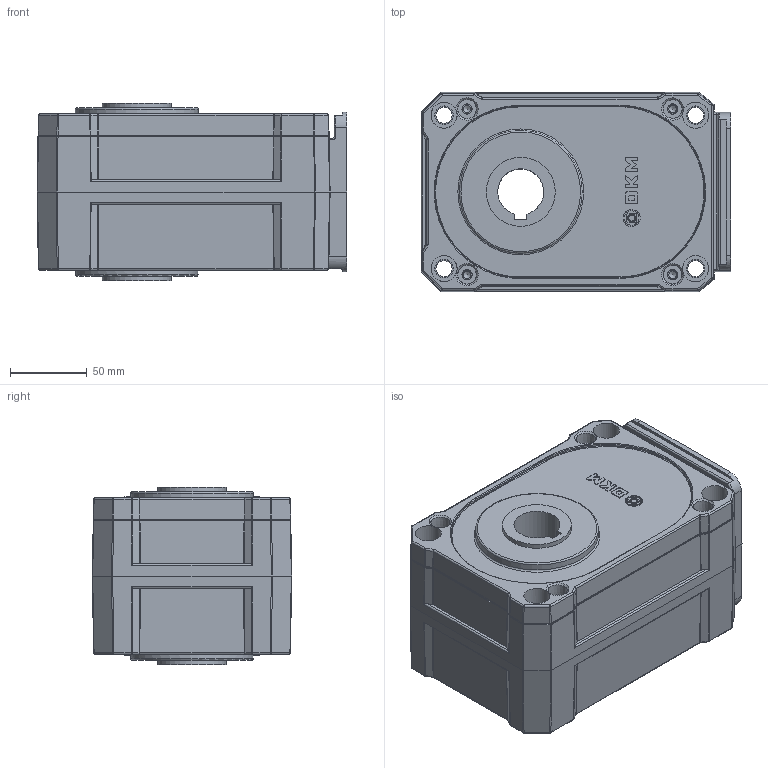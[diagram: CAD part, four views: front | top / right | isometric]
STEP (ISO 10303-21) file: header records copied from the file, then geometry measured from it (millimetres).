
FILE_DESCRIPTION (( 'STEP AP203' ), '1' );
FILE_NAME ('104L 橫撬綰葬.STEP', '2020-04-21T00:38:06', ( '' ), ( '' ), 'SwSTEP 2.0', 'SolidWorks 2012', '' );
FILE_SCHEMA (( 'CONFIG_CONTROL_DESIGN' ));
Length unit declared in the file: millimetre
Products named in the file (4): 104L 橫撬綰葬; 10HCS; 104L-COVER; 104L-CASE
Assembly tree (3 placements, depth 2):
  104L 橫撬綰葬
    104L-CASE
    104L-COVER
    10HCS
Bounding box: 202 x 130 x 116 mm (x, y, z)
Volume: 2139530.9 mm3; surface area: 256486.3 mm2
Topology: 3 solids, 20 shells, 891 faces, 2127 edges, 1280 vertices
Faces by surface type: plane 324, cylinder 256, bspline 191, cone 72, torus 32, sphere 16
Full cylindrical faces by diameter (mm): 3.993 x2, 5 x4, 5.269 x2, 6.8 x4, 10 x4, 10.5 x4, 12 x8, 17 x8, 32 x1, 45 x3, 80 x1, 94 x1
Entity records: 33202 total; most frequent: CARTESIAN_POINT 14673, ORIENTED_EDGE 3944, DIRECTION 3275, EDGE_CURVE 1972, VERTEX_POINT 1247, AXIS2_PLACEMENT_3D 1179, EDGE_LOOP 1055, FACE_OUTER_BOUND 937
